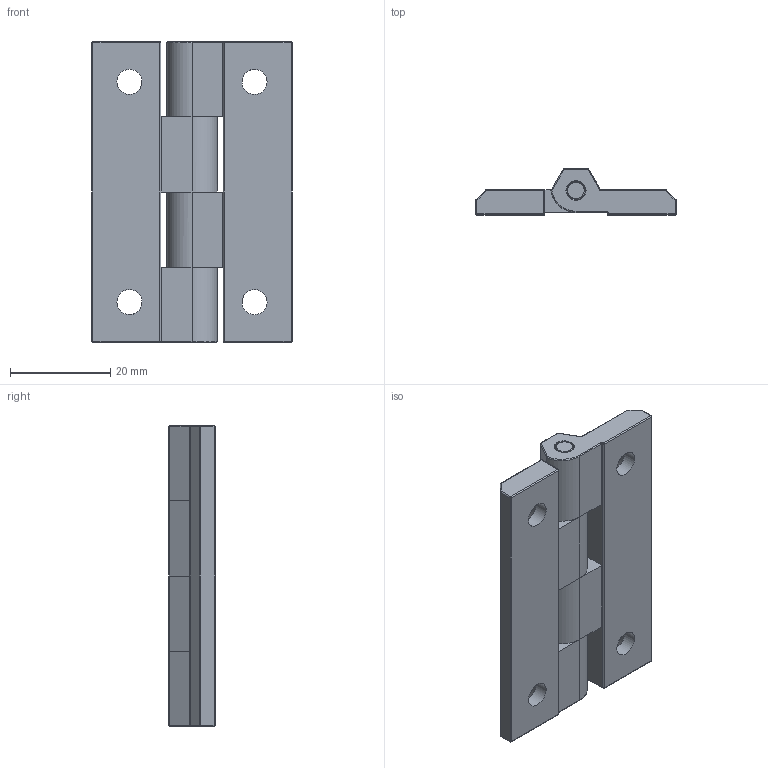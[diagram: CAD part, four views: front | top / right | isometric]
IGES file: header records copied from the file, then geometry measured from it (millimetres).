
Global section: file name: DR_HC6040; native system: Autodesk Inventor 2015; preprocessor: unknown; author: user; date: 20170823.135916; units: millimetre
Bounding box: 40 x 9.2 x 60 mm (x, y, z)
Volume: 12034.8 mm3; surface area: 8108 mm2
Topology: 3 solids, 3 shells, 149 faces, 351 edges, 208 vertices
Faces by surface type: bspline 149
